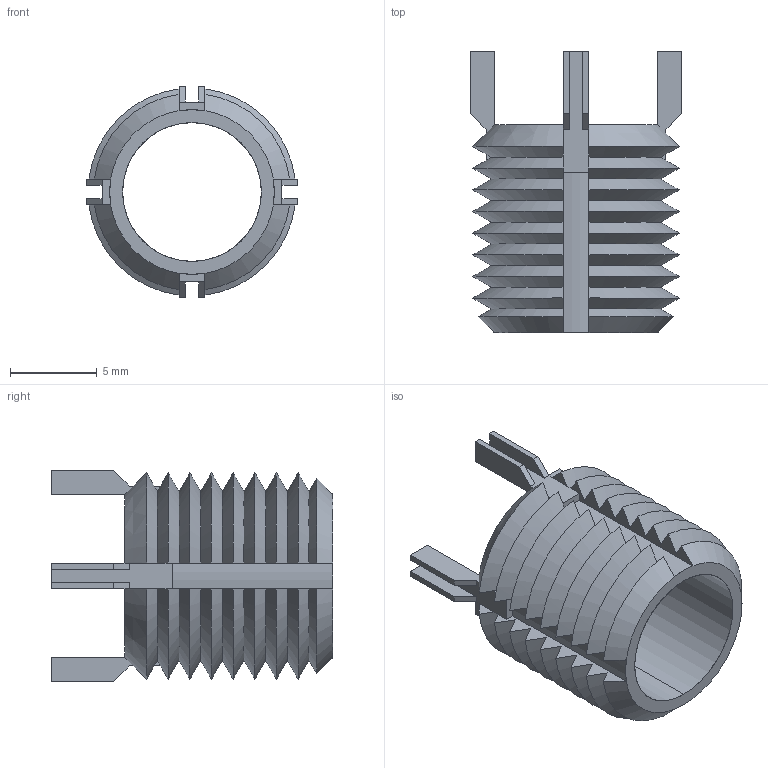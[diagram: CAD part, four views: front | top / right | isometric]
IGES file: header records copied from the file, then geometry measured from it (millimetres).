
Start section: SolidWorks IGES file using analytic representation for surfaces
Global section: file name: C:\Users\IanO\Desktop\22004_v2\TR1520_v2_20230331_IGES\TR1520.65953.igs; native system: SolidWorks 2019; preprocessor: SolidWorks 2019; author: IanO; date: 230331.094827; units: millimetre
Bounding box: 12.18 x 16.25 x 12.18 mm (x, y, z)
Surface area: 1246.7 mm2 (no closed solid volume)
Topology: 0 solids, 0 shells, 152 faces, 944 edges, 944 vertices
Faces by surface type: revolution 78, bspline 74
